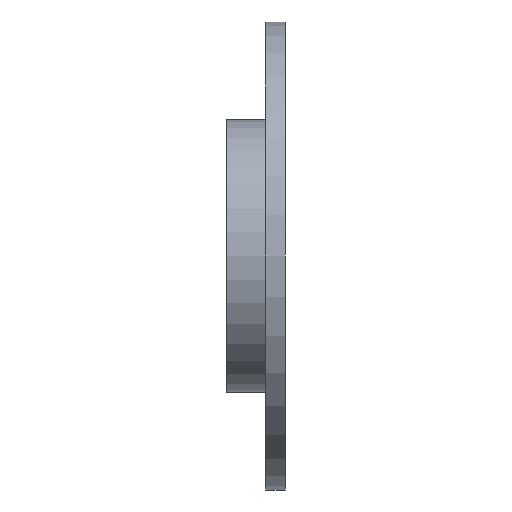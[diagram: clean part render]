
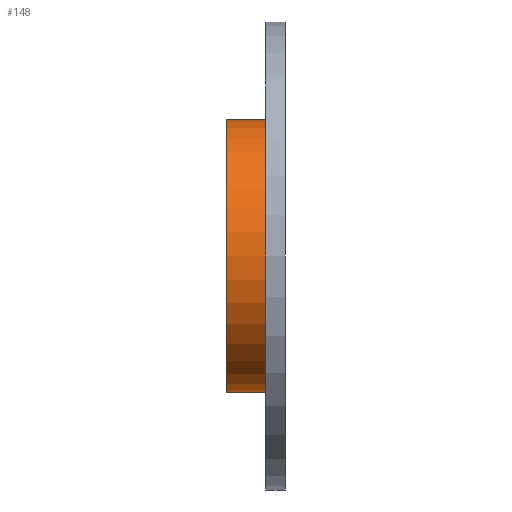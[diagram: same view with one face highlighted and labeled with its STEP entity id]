
A CAD part, left-side view. The second image highlights one B-rep face of the part: STEP entity #148.
In plain terms, the highlighted cylindrical face has radius 35 mm (diameter 70 mm), a partial arc.
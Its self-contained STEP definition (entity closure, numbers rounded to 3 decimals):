
#75 = EDGE_CURVE ( 'NONE', #660, #932, #1349, .T. ) ;
#135 = DIRECTION ( 'NONE',  ( 0., 0., -1. ) ) ;
#148 = ADVANCED_FACE ( 'NONE', ( #1711 ), #621, .T. ) ;
#243 = DIRECTION ( 'NONE',  ( 0., 1., 0. ) ) ;
#287 = ORIENTED_EDGE ( 'NONE', *, *, #75, .F. ) ;
#318 = DIRECTION ( 'NONE',  ( 0., 0., 1. ) ) ;
#424 = CARTESIAN_POINT ( 'NONE',  ( 0., 5., 35. ) ) ;
#431 = CARTESIAN_POINT ( 'NONE',  ( 0., 15., -35. ) ) ;
#502 = ORIENTED_EDGE ( 'NONE', *, *, #669, .T. ) ;
#556 = CARTESIAN_POINT ( 'NONE',  ( 0., 15., -35. ) ) ;
#605 = DIRECTION ( 'NONE',  ( 0., 1., 0. ) ) ;
#621 = CYLINDRICAL_SURFACE ( 'NONE', #658, 35. ) ;
#658 = AXIS2_PLACEMENT_3D ( 'NONE', #1712, #1304, #135 ) ;
#660 = VERTEX_POINT ( 'NONE', #431 ) ;
#669 = EDGE_CURVE ( 'NONE', #660, #1429, #1194, .T. ) ;
#710 = AXIS2_PLACEMENT_3D ( 'NONE', #1683, #243, #1689 ) ;
#724 = CARTESIAN_POINT ( 'NONE',  ( 0., 5., 0. ) ) ;
#743 = DIRECTION ( 'NONE',  ( 0., -1., 0. ) ) ;
#828 = VECTOR ( 'NONE', #743, 1000. ) ;
#896 = CARTESIAN_POINT ( 'NONE',  ( 0., 15., 35. ) ) ;
#930 = ORIENTED_EDGE ( 'NONE', *, *, #1424, .T. ) ;
#932 = VERTEX_POINT ( 'NONE', #1119 ) ;
#1089 = DIRECTION ( 'NONE',  ( 0., -1., 0. ) ) ;
#1099 = ORIENTED_EDGE ( 'NONE', *, *, #1653, .F. ) ;
#1119 = CARTESIAN_POINT ( 'NONE',  ( 0., 15., 35. ) ) ;
#1152 = AXIS2_PLACEMENT_3D ( 'NONE', #724, #605, #318 ) ;
#1194 = LINE ( 'NONE', #556, #1534 ) ;
#1216 = CARTESIAN_POINT ( 'NONE',  ( 0., 5., -35. ) ) ;
#1231 = LINE ( 'NONE', #896, #828 ) ;
#1304 = DIRECTION ( 'NONE',  ( 0., -1., 0. ) ) ;
#1329 = EDGE_LOOP ( 'NONE', ( #1099, #287, #502, #930 ) ) ;
#1349 = CIRCLE ( 'NONE', #710, 35. ) ;
#1403 = VERTEX_POINT ( 'NONE', #424 ) ;
#1424 = EDGE_CURVE ( 'NONE', #1429, #1403, #1439, .T. ) ;
#1429 = VERTEX_POINT ( 'NONE', #1216 ) ;
#1439 = CIRCLE ( 'NONE', #1152, 35. ) ;
#1534 = VECTOR ( 'NONE', #1089, 1000. ) ;
#1653 = EDGE_CURVE ( 'NONE', #932, #1403, #1231, .T. ) ;
#1683 = CARTESIAN_POINT ( 'NONE',  ( 0., 15., 0. ) ) ;
#1689 = DIRECTION ( 'NONE',  ( 0., 0., 1. ) ) ;
#1711 = FACE_OUTER_BOUND ( 'NONE', #1329, .T. ) ;
#1712 = CARTESIAN_POINT ( 'NONE',  ( 0., 15., 0. ) ) ;
